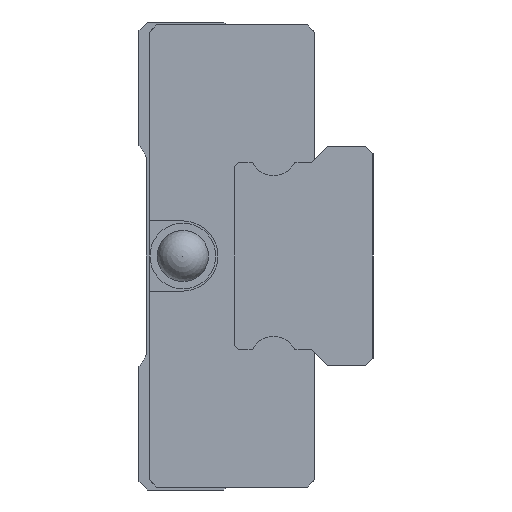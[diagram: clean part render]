
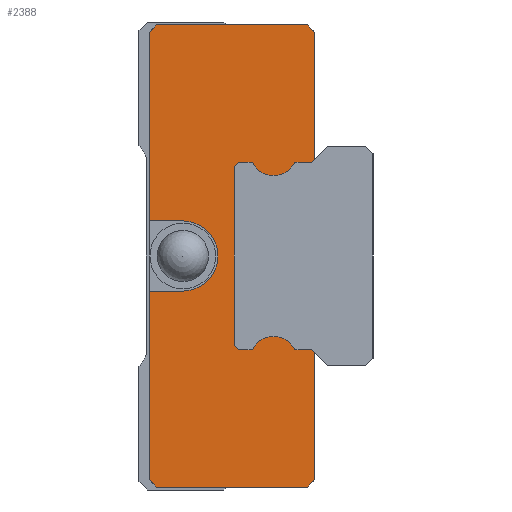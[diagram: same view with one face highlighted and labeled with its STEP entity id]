
A CAD part, left-side view. The second image highlights one B-rep face of the part: STEP entity #2388.
In plain terms, the highlighted planar face has unit normal (-1, 0, 0).
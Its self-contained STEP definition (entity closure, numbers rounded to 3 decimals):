
#110=CIRCLE('',#2595,2.4);
#111=CIRCLE('',#2596,0.15);
#112=CIRCLE('',#2597,1.6);
#113=CIRCLE('',#2598,0.15);
#114=CIRCLE('',#2599,0.15);
#115=CIRCLE('',#2600,1.6);
#116=CIRCLE('',#2601,0.15);
#318=ORIENTED_EDGE('',*,*,#902,.T.);
#319=ORIENTED_EDGE('',*,*,#903,.T.);
#320=ORIENTED_EDGE('',*,*,#904,.T.);
#321=ORIENTED_EDGE('',*,*,#900,.F.);
#322=ORIENTED_EDGE('',*,*,#905,.F.);
#323=ORIENTED_EDGE('',*,*,#906,.F.);
#324=ORIENTED_EDGE('',*,*,#907,.F.);
#325=ORIENTED_EDGE('',*,*,#908,.F.);
#326=ORIENTED_EDGE('',*,*,#909,.F.);
#327=ORIENTED_EDGE('',*,*,#910,.T.);
#328=ORIENTED_EDGE('',*,*,#911,.T.);
#329=ORIENTED_EDGE('',*,*,#912,.F.);
#330=ORIENTED_EDGE('',*,*,#913,.T.);
#331=ORIENTED_EDGE('',*,*,#914,.T.);
#332=ORIENTED_EDGE('',*,*,#915,.T.);
#333=ORIENTED_EDGE('',*,*,#916,.T.);
#334=ORIENTED_EDGE('',*,*,#917,.T.);
#335=ORIENTED_EDGE('',*,*,#918,.T.);
#336=ORIENTED_EDGE('',*,*,#919,.T.);
#337=ORIENTED_EDGE('',*,*,#920,.F.);
#338=ORIENTED_EDGE('',*,*,#921,.T.);
#339=ORIENTED_EDGE('',*,*,#922,.T.);
#340=ORIENTED_EDGE('',*,*,#923,.T.);
#341=ORIENTED_EDGE('',*,*,#924,.F.);
#342=ORIENTED_EDGE('',*,*,#925,.F.);
#343=ORIENTED_EDGE('',*,*,#926,.F.);
#344=ORIENTED_EDGE('',*,*,#927,.F.);
#345=ORIENTED_EDGE('',*,*,#896,.F.);
#896=EDGE_CURVE('',#1208,#1209,#1430,.T.);
#900=EDGE_CURVE('',#1212,#1213,#1434,.T.);
#902=EDGE_CURVE('',#1208,#1214,#1436,.T.);
#903=EDGE_CURVE('',#1214,#1215,#110,.T.);
#904=EDGE_CURVE('',#1215,#1213,#1437,.T.);
#905=EDGE_CURVE('',#1216,#1212,#1438,.T.);
#906=EDGE_CURVE('',#1217,#1216,#1439,.T.);
#907=EDGE_CURVE('',#1218,#1217,#1440,.T.);
#908=EDGE_CURVE('',#1219,#1218,#1441,.T.);
#909=EDGE_CURVE('',#1220,#1219,#1442,.T.);
#910=EDGE_CURVE('',#1220,#1221,#1443,.T.);
#911=EDGE_CURVE('',#1221,#1222,#111,.T.);
#912=EDGE_CURVE('',#1223,#1222,#112,.T.);
#913=EDGE_CURVE('',#1223,#1224,#113,.T.);
#914=EDGE_CURVE('',#1224,#1225,#1444,.T.);
#915=EDGE_CURVE('',#1225,#1226,#1445,.T.);
#916=EDGE_CURVE('',#1226,#1227,#1446,.T.);
#917=EDGE_CURVE('',#1227,#1228,#1447,.T.);
#918=EDGE_CURVE('',#1228,#1229,#1448,.T.);
#919=EDGE_CURVE('',#1229,#1230,#114,.T.);
#920=EDGE_CURVE('',#1231,#1230,#115,.T.);
#921=EDGE_CURVE('',#1231,#1232,#116,.T.);
#922=EDGE_CURVE('',#1232,#1233,#1449,.T.);
#923=EDGE_CURVE('',#1233,#1234,#1450,.T.);
#924=EDGE_CURVE('',#1235,#1234,#1451,.T.);
#925=EDGE_CURVE('',#1236,#1235,#1452,.T.);
#926=EDGE_CURVE('',#1237,#1236,#1453,.T.);
#927=EDGE_CURVE('',#1209,#1237,#1454,.T.);
#1208=VERTEX_POINT('',#3602);
#1209=VERTEX_POINT('',#3604);
#1212=VERTEX_POINT('',#3610);
#1213=VERTEX_POINT('',#3612);
#1214=VERTEX_POINT('',#3616);
#1215=VERTEX_POINT('',#3618);
#1216=VERTEX_POINT('',#3621);
#1217=VERTEX_POINT('',#3623);
#1218=VERTEX_POINT('',#3625);
#1219=VERTEX_POINT('',#3627);
#1220=VERTEX_POINT('',#3629);
#1221=VERTEX_POINT('',#3631);
#1222=VERTEX_POINT('',#3633);
#1223=VERTEX_POINT('',#3635);
#1224=VERTEX_POINT('',#3637);
#1225=VERTEX_POINT('',#3639);
#1226=VERTEX_POINT('',#3641);
#1227=VERTEX_POINT('',#3643);
#1228=VERTEX_POINT('',#3645);
#1229=VERTEX_POINT('',#3647);
#1230=VERTEX_POINT('',#3649);
#1231=VERTEX_POINT('',#3651);
#1232=VERTEX_POINT('',#3653);
#1233=VERTEX_POINT('',#3655);
#1234=VERTEX_POINT('',#3657);
#1235=VERTEX_POINT('',#3659);
#1236=VERTEX_POINT('',#3661);
#1237=VERTEX_POINT('',#3663);
#1430=LINE('',#3603,#1690);
#1434=LINE('',#3611,#1694);
#1436=LINE('',#3615,#1696);
#1437=LINE('',#3619,#1697);
#1438=LINE('',#3620,#1698);
#1439=LINE('',#3622,#1699);
#1440=LINE('',#3624,#1700);
#1441=LINE('',#3626,#1701);
#1442=LINE('',#3628,#1702);
#1443=LINE('',#3630,#1703);
#1444=LINE('',#3638,#1704);
#1445=LINE('',#3640,#1705);
#1446=LINE('',#3642,#1706);
#1447=LINE('',#3644,#1707);
#1448=LINE('',#3646,#1708);
#1449=LINE('',#3654,#1709);
#1450=LINE('',#3656,#1710);
#1451=LINE('',#3658,#1711);
#1452=LINE('',#3660,#1712);
#1453=LINE('',#3662,#1713);
#1454=LINE('',#3664,#1714);
#1690=VECTOR('',#2928,1000.);
#1694=VECTOR('',#2932,1000.);
#1696=VECTOR('',#2936,1000.);
#1697=VECTOR('',#2939,1000.);
#1698=VECTOR('',#2940,1000.);
#1699=VECTOR('',#2941,1000.);
#1700=VECTOR('',#2942,1000.);
#1701=VECTOR('',#2943,1000.);
#1702=VECTOR('',#2944,1000.);
#1703=VECTOR('',#2945,1000.);
#1704=VECTOR('',#2952,1000.);
#1705=VECTOR('',#2953,1000.);
#1706=VECTOR('',#2954,1000.);
#1707=VECTOR('',#2955,1000.);
#1708=VECTOR('',#2956,1000.);
#1709=VECTOR('',#2963,1000.);
#1710=VECTOR('',#2964,1000.);
#1711=VECTOR('',#2965,1000.);
#1712=VECTOR('',#2966,1000.);
#1713=VECTOR('',#2967,1000.);
#1714=VECTOR('',#2968,1000.);
#1963=EDGE_LOOP('',(#318,#319,#320,#321,#322,#323,#324,#325,#326,#327,#328,
#329,#330,#331,#332,#333,#334,#335,#336,#337,#338,#339,#340,#341,#342,#343,
#344,#345));
#2139=FACE_BOUND('',#1963,.T.);
#2276=PLANE('',#2594);
#2388=ADVANCED_FACE('',(#2139),#2276,.F.);
#2594=AXIS2_PLACEMENT_3D('',#3614,#2934,#2935);
#2595=AXIS2_PLACEMENT_3D('',#3617,#2937,#2938);
#2596=AXIS2_PLACEMENT_3D('',#3632,#2946,#2947);
#2597=AXIS2_PLACEMENT_3D('',#3634,#2948,#2949);
#2598=AXIS2_PLACEMENT_3D('',#3636,#2950,#2951);
#2599=AXIS2_PLACEMENT_3D('',#3648,#2957,#2958);
#2600=AXIS2_PLACEMENT_3D('',#3650,#2959,#2960);
#2601=AXIS2_PLACEMENT_3D('',#3652,#2961,#2962);
#2928=DIRECTION('',(0.,0.,1.));
#2932=DIRECTION('',(0.,0.,1.));
#2934=DIRECTION('',(1.,0.,0.));
#2935=DIRECTION('',(0.,0.,-1.));
#2936=DIRECTION('',(0.,-1.,0.));
#2937=DIRECTION('',(1.,0.,0.));
#2938=DIRECTION('',(0.,0.,-1.));
#2939=DIRECTION('',(0.,1.,0.));
#2940=DIRECTION('',(0.,0.707,0.707));
#2941=DIRECTION('',(0.,1.,0.));
#2942=DIRECTION('',(0.,0.707,-0.707));
#2943=DIRECTION('',(0.,0.,-1.));
#2944=DIRECTION('',(0.,-0.707,-0.707));
#2945=DIRECTION('',(0.,1.,0.));
#2946=DIRECTION('',(1.,0.,0.));
#2947=DIRECTION('',(0.,0.,-1.));
#2948=DIRECTION('',(1.,0.,0.));
#2949=DIRECTION('',(0.,0.,-1.));
#2950=DIRECTION('',(1.,0.,0.));
#2951=DIRECTION('',(0.,0.,-1.));
#2952=DIRECTION('',(0.,1.,0.));
#2953=DIRECTION('',(0.,0.707,0.707));
#2954=DIRECTION('',(0.,0.,1.));
#2955=DIRECTION('',(0.,-0.707,0.707));
#2956=DIRECTION('',(0.,-1.,0.));
#2957=DIRECTION('',(1.,0.,0.));
#2958=DIRECTION('',(0.,0.,-1.));
#2959=DIRECTION('',(1.,0.,0.));
#2960=DIRECTION('',(0.,0.,-1.));
#2961=DIRECTION('',(1.,0.,0.));
#2962=DIRECTION('',(0.,0.,-1.));
#2963=DIRECTION('',(0.,-1.,0.));
#2964=DIRECTION('',(0.,-0.707,0.707));
#2965=DIRECTION('',(0.,0.,-1.));
#2966=DIRECTION('',(0.,-0.707,-0.707));
#2967=DIRECTION('',(0.,-1.,0.));
#2968=DIRECTION('',(0.,-0.707,0.707));
#3602=CARTESIAN_POINT('',(-15.95,11.3,2.4));
#3603=CARTESIAN_POINT('',(-15.95,11.3,-15.3));
#3604=CARTESIAN_POINT('',(-15.95,11.3,15.3));
#3610=CARTESIAN_POINT('',(-15.95,11.3,-15.3));
#3611=CARTESIAN_POINT('',(-15.95,11.3,-15.3));
#3612=CARTESIAN_POINT('',(-15.95,11.3,-2.4));
#3614=CARTESIAN_POINT('',(-15.95,0.,0.));
#3615=CARTESIAN_POINT('',(-15.95,12.,2.4));
#3616=CARTESIAN_POINT('',(-15.95,9.,2.4));
#3617=CARTESIAN_POINT('',(-15.95,9.,0.));
#3618=CARTESIAN_POINT('',(-15.95,9.,-2.4));
#3619=CARTESIAN_POINT('',(-15.95,9.,-2.4));
#3620=CARTESIAN_POINT('',(-15.95,10.8,-15.8));
#3621=CARTESIAN_POINT('',(-15.95,10.8,-15.8));
#3622=CARTESIAN_POINT('',(-15.95,0.5,-15.8));
#3623=CARTESIAN_POINT('',(-15.95,0.5,-15.8));
#3624=CARTESIAN_POINT('',(-15.95,0.,-15.3));
#3625=CARTESIAN_POINT('',(-15.95,0.,-15.3));
#3626=CARTESIAN_POINT('',(-15.95,0.,15.3));
#3627=CARTESIAN_POINT('',(-15.95,0.,-6.6));
#3628=CARTESIAN_POINT('',(-15.95,3.3,-3.3));
#3629=CARTESIAN_POINT('',(-15.95,0.2,-6.4));
#3630=CARTESIAN_POINT('',(-15.95,0.2,-6.4));
#3631=CARTESIAN_POINT('',(-15.95,1.27,-6.4));
#3632=CARTESIAN_POINT('',(-15.95,1.27,-6.25));
#3633=CARTESIAN_POINT('',(-15.95,1.401,-6.323));
#3634=CARTESIAN_POINT('',(-15.95,2.8,-7.1));
#3635=CARTESIAN_POINT('',(-15.95,4.199,-6.323));
#3636=CARTESIAN_POINT('',(-15.95,4.33,-6.25));
#3637=CARTESIAN_POINT('',(-15.95,4.33,-6.4));
#3638=CARTESIAN_POINT('',(-15.95,4.33,-6.4));
#3639=CARTESIAN_POINT('',(-15.95,5.2,-6.4));
#3640=CARTESIAN_POINT('',(-15.95,5.2,-6.4));
#3641=CARTESIAN_POINT('',(-15.95,5.5,-6.1));
#3642=CARTESIAN_POINT('',(-15.95,5.5,-6.1));
#3643=CARTESIAN_POINT('',(-15.95,5.5,6.1));
#3644=CARTESIAN_POINT('',(-15.95,5.5,6.1));
#3645=CARTESIAN_POINT('',(-15.95,5.2,6.4));
#3646=CARTESIAN_POINT('',(-15.95,5.2,6.4));
#3647=CARTESIAN_POINT('',(-15.95,4.33,6.4));
#3648=CARTESIAN_POINT('',(-15.95,4.33,6.25));
#3649=CARTESIAN_POINT('',(-15.95,4.199,6.323));
#3650=CARTESIAN_POINT('',(-15.95,2.8,7.1));
#3651=CARTESIAN_POINT('',(-15.95,1.401,6.323));
#3652=CARTESIAN_POINT('',(-15.95,1.27,6.25));
#3653=CARTESIAN_POINT('',(-15.95,1.27,6.4));
#3654=CARTESIAN_POINT('',(-15.95,1.27,6.4));
#3655=CARTESIAN_POINT('',(-15.95,0.2,6.4));
#3656=CARTESIAN_POINT('',(-15.95,0.2,6.4));
#3657=CARTESIAN_POINT('',(-15.95,0.,6.6));
#3658=CARTESIAN_POINT('',(-15.95,0.,15.3));
#3659=CARTESIAN_POINT('',(-15.95,0.,15.3));
#3660=CARTESIAN_POINT('',(-15.95,0.5,15.8));
#3661=CARTESIAN_POINT('',(-15.95,0.5,15.8));
#3662=CARTESIAN_POINT('',(-15.95,10.8,15.8));
#3663=CARTESIAN_POINT('',(-15.95,10.8,15.8));
#3664=CARTESIAN_POINT('',(-15.95,11.3,15.3));
